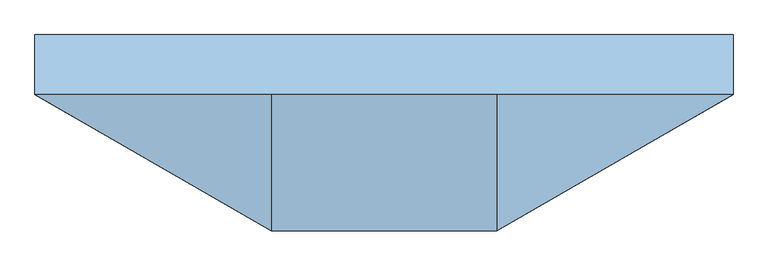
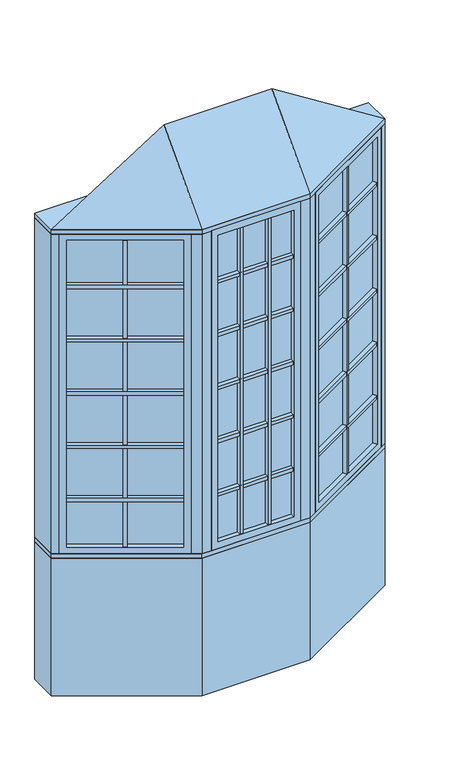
"""IFC4 building model written with IfcOpenShell, lengths in millimetres: window geometry, Pollard_Windows_Tudor Casement Bows and Bays : AML-BAY 30 AFR0518-08-600_GC."""

from ifc_helpers import new_model, si_unit, frame, origin, origin_with_axes, place, context, project, spatial, polyline, outline, extrude, faceted_brep, source, transform, mapped, element, save


def window_bf2ad7f0(model_context):
    return source(origin(), model_context, "Body", "SolidModel", [
        extrude(outline(polyline([(360.381999, -376.6297343), (349.381999, -357.5771754), (815.6135794, -88.3982469), (826.6135794, -107.4508058), (360.381999, -376.6297343)])), frame((0.0, 0.0, 1690.998), z_axis=(0.0, 0.0, 1.0), x_axis=(1.0, 0.0, 0.0)), (0.0, 0.0, 1.0), 18.0),
        extrude(outline(polyline([(346.841999, -353.1777664), (335.841999, -334.1252075), (802.0735794, -64.946279), (813.0735794, -83.9988379), (346.841999, -353.1777664)])), frame((0.0, 0.0, 1690.998), z_axis=(0.0, 0.0, 1.0), x_axis=(1.0, 0.0, 0.0)), (0.0, 0.0, 1.0), 18.0),
        extrude(outline(polyline([(360.381999, -376.6297343), (349.381999, -357.5771754), (815.6135794, -88.3982469), (826.6135794, -107.4508058), (360.381999, -376.6297343)])), frame((0.0, 0.0, 1090.998), z_axis=(0.0, 0.0, 1.0), x_axis=(1.0, 0.0, 0.0)), (0.0, 0.0, 1.0), 18.0),
        extrude(outline(polyline([(346.841999, -353.1777664), (335.841999, -334.1252075), (802.0735794, -64.946279), (813.0735794, -83.9988379), (346.841999, -353.1777664)])), frame((0.0, 0.0, 1090.998), z_axis=(0.0, 0.0, 1.0), x_axis=(1.0, 0.0, 0.0)), (0.0, 0.0, 1.0), 18.0),
        extrude(outline(polyline([(360.381999, -376.6297343), (349.381999, -357.5771754), (815.6135794, -88.3982469), (826.6135794, -107.4508058), (360.381999, -376.6297343)])), frame((0.0, 0.0, 1390.998), z_axis=(0.0, 0.0, 1.0), x_axis=(1.0, 0.0, 0.0)), (0.0, 0.0, 1.0), 18.0),
        extrude(outline(polyline([(346.841999, -353.1777664), (335.841999, -334.1252075), (802.0735794, -64.946279), (813.0735794, -83.9988379), (346.841999, -353.1777664)])), frame((0.0, 0.0, 1390.998), z_axis=(0.0, 0.0, 1.0), x_axis=(1.0, 0.0, 0.0)), (0.0, 0.0, 1.0), 18.0),
        extrude(outline(polyline([(360.381999, -376.6297343), (349.381999, -357.5771754), (815.6135794, -88.3982469), (826.6135794, -107.4508058), (360.381999, -376.6297343)])), frame((0.0, 0.0, 1990.998), z_axis=(0.0, 0.0, 1.0), x_axis=(1.0, 0.0, 0.0)), (0.0, 0.0, 1.0), 18.0),
        extrude(outline(polyline([(346.841999, -353.1777664), (335.841999, -334.1252075), (802.0735794, -64.946279), (813.0735794, -83.9988379), (346.841999, -353.1777664)])), frame((0.0, 0.0, 1990.998), z_axis=(0.0, 0.0, 1.0), x_axis=(1.0, 0.0, 0.0)), (0.0, 0.0, 1.0), 18.0),
        extrude(outline(polyline([(360.381999, -376.6297343), (349.381999, -357.5771754), (815.6135794, -88.3982469), (826.6135794, -107.4508058), (360.381999, -376.6297343)])), frame((0.0, 0.0, 2290.998), z_axis=(0.0, 0.0, 1.0), x_axis=(1.0, 0.0, 0.0)), (0.0, 0.0, 1.0), 18.0),
        extrude(outline(polyline([(346.841999, -353.1777664), (335.841999, -334.1252075), (802.0735794, -64.946279), (813.0735794, -83.9988379), (346.841999, -353.1777664)])), frame((0.0, 0.0, 2290.998), z_axis=(0.0, 0.0, 1.0), x_axis=(1.0, 0.0, 0.0)), (0.0, 0.0, 1.0), 18.0),
        extrude(outline(polyline([(590.2920178, -218.4877112), (601.2920178, -237.5402701), (585.7035606, -246.5402701), (574.7035606, -227.4877112), (590.2920178, -218.4877112)])), frame((0.0, 0.0, 835.8628), z_axis=(0.0, 0.0, 1.0), x_axis=(1.0, 0.0, 0.0)), (0.0, 0.0, 1.0), 1728.2704),
        extrude(outline(polyline([(587.7520178, -214.0883021), (572.1635606, -223.0883021), (561.1635606, -204.0357432), (576.7520178, -195.0357432), (587.7520178, -214.0883021)])), frame((0.0, 0.0, 835.8628), z_axis=(0.0, 0.0, 1.0), x_axis=(1.0, 0.0, 0.0)), (0.0, 0.0, 1.0), 1728.2704),
        extrude(outline(polyline([(826.612102, -82.0482469), (338.3834764, -363.9271754), (335.8434764, -359.5277664), (824.072102, -77.6488379), (826.612102, -82.0482469)])), frame((0.0, 0.0, 823.1628), z_axis=(0.0, 0.0, 1.0), x_axis=(1.0, 0.0, 0.0)), (0.0, 0.0, 1.0), 1753.6704),
        faceted_brep([(815.6135794, -88.3982469, 835.8628), (828.3135794, -110.3952922, 835.8628), (828.3135794, -110.3952922, 2564.1332), (815.6135794, -88.3982469, 2564.1332), (824.072102, -77.6488379, 823.1628), (826.612102, -82.0482469, 823.1628), (826.612102, -82.0482469, 2576.8332), (824.072102, -77.6488379, 2576.8332), (800.3735794, -62.0017926, 835.8628), (813.0735794, -83.9988379, 835.8628), (813.0735794, -83.9988379, 2564.1332), (800.3735794, -62.0017926, 2564.1332), (859.3734073, -92.4628922, 799.998), (831.4334073, -44.0693926, 799.998), (831.4334073, -44.0693926, 2599.998), (859.3734073, -92.4628922, 2599.998), (362.081999, -379.5742207, 2564.1332), (349.381999, -357.5771754, 2564.1332), (338.3834764, -363.9271754, 2576.8332), (335.8434764, -359.5277664, 2576.8332), (346.841999, -353.1777664, 2564.1332), (334.141999, -331.1807211, 2564.1332), (303.0821711, -349.1131211, 2599.998), (331.0221711, -397.5066207, 2599.998), (362.081999, -379.5742207, 835.8628), (349.381999, -357.5771754, 835.8628), (338.3834764, -363.9271754, 823.1628), (335.8434764, -359.5277664, 823.1628), (346.841999, -353.1777664, 835.8628), (334.141999, -331.1807211, 835.8628), (303.0821711, -349.1131211, 799.998), (331.0221711, -397.5066207, 799.998)], [[[0, 1, 2, 3]], [[4, 5, 6, 7]], [[8, 9, 10, 11]], [[12, 13, 14, 15]], [[3, 2, 16, 17]], [[7, 6, 18, 19]], [[11, 10, 20, 21]], [[15, 14, 22, 23]], [[17, 16, 24, 25]], [[19, 18, 26, 27]], [[21, 20, 28, 29]], [[23, 22, 30, 31]], [[25, 24, 1, 0]], [[5, 26, 18, 6], [3, 17, 25, 0]], [[27, 26, 5, 4]], [[7, 19, 27, 4], [9, 28, 20, 10]], [[29, 28, 9, 8]], [[13, 30, 22, 14], [11, 21, 29, 8]], [[31, 30, 13, 12]], [[15, 23, 31, 12], [1, 24, 16, 2]]]),
        extrude(outline(polyline([(83.5188336, -397.1066207), (83.5188336, -419.1066207), (65.5188336, -419.1066207), (65.5188336, -397.1066207), (83.5188336, -397.1066207)])), frame((0.0, 0.0, 835.8628), z_axis=(0.0, 0.0, 1.0), x_axis=(1.0, 0.0, 0.0)), (0.0, 0.0, 1.0), 1728.2704),
        extrude(outline(polyline([(83.5188336, -392.0266207), (65.5188336, -392.0266207), (65.5188336, -370.0266207), (83.5188336, -370.0266207), (83.5188336, -392.0266207)])), frame((0.0, 0.0, 835.8628), z_axis=(0.0, 0.0, 1.0), x_axis=(1.0, 0.0, 0.0)), (0.0, 0.0, 1.0), 1728.2704),
        extrude(outline(polyline([(-65.5188336, -397.1066207), (-65.5188336, -419.1066207), (-83.5188336, -419.1066207), (-83.5188336, -397.1066207), (-65.5188336, -397.1066207)])), frame((0.0, 0.0, 835.8628), z_axis=(0.0, 0.0, 1.0), x_axis=(1.0, 0.0, 0.0)), (0.0, 0.0, 1.0), 1728.2704),
        extrude(outline(polyline([(-65.5188336, -392.0266207), (-83.5188336, -392.0266207), (-83.5188336, -370.0266207), (-65.5188336, -370.0266207), (-65.5188336, -392.0266207)])), frame((0.0, 0.0, 835.8628), z_axis=(0.0, 0.0, 1.0), x_axis=(1.0, 0.0, 0.0)), (0.0, 0.0, 1.0), 1728.2704),
        extrude(outline(polyline([(-201.8561009, -419.1066207), (-201.8561009, -397.1066207), (201.8561009, -397.1066207), (201.8561009, -419.1066207), (-201.8561009, -419.1066207)])), frame((0.0, 0.0, 1090.998), z_axis=(0.0, 0.0, 1.0), x_axis=(1.0, 0.0, 0.0)), (0.0, 0.0, 1.0), 18.0),
        extrude(outline(polyline([(-201.8561009, -392.0266207), (-201.8561009, -370.0266207), (201.8561009, -370.0266207), (201.8561009, -392.0266207), (-201.8561009, -392.0266207)])), frame((0.0, 0.0, 1090.998), z_axis=(0.0, 0.0, 1.0), x_axis=(1.0, 0.0, 0.0)), (0.0, 0.0, 1.0), 18.0),
        extrude(outline(polyline([(-201.8561009, -419.1066207), (-201.8561009, -397.1066207), (201.8561009, -397.1066207), (201.8561009, -419.1066207), (-201.8561009, -419.1066207)])), frame((0.0, 0.0, 1390.998), z_axis=(0.0, 0.0, 1.0), x_axis=(1.0, 0.0, 0.0)), (0.0, 0.0, 1.0), 18.0),
        extrude(outline(polyline([(-201.8561009, -392.0266207), (-201.8561009, -370.0266207), (201.8561009, -370.0266207), (201.8561009, -392.0266207), (-201.8561009, -392.0266207)])), frame((0.0, 0.0, 1390.998), z_axis=(0.0, 0.0, 1.0), x_axis=(1.0, 0.0, 0.0)), (0.0, 0.0, 1.0), 18.0),
        extrude(outline(polyline([(-201.8561009, -419.1066207), (-201.8561009, -397.1066207), (201.8561009, -397.1066207), (201.8561009, -419.1066207), (-201.8561009, -419.1066207)])), frame((0.0, 0.0, 1690.998), z_axis=(0.0, 0.0, 1.0), x_axis=(1.0, 0.0, 0.0)), (0.0, 0.0, 1.0), 18.0),
        extrude(outline(polyline([(-201.8561009, -392.0266207), (-201.8561009, -370.0266207), (201.8561009, -370.0266207), (201.8561009, -392.0266207), (-201.8561009, -392.0266207)])), frame((0.0, 0.0, 1690.998), z_axis=(0.0, 0.0, 1.0), x_axis=(1.0, 0.0, 0.0)), (0.0, 0.0, 1.0), 18.0),
        extrude(outline(polyline([(-201.8561009, -419.1066207), (-201.8561009, -397.1066207), (201.8561009, -397.1066207), (201.8561009, -419.1066207), (-201.8561009, -419.1066207)])), frame((0.0, 0.0, 1990.998), z_axis=(0.0, 0.0, 1.0), x_axis=(1.0, 0.0, 0.0)), (0.0, 0.0, 1.0), 18.0),
        extrude(outline(polyline([(-201.8561009, -392.0266207), (-201.8561009, -370.0266207), (201.8561009, -370.0266207), (201.8561009, -392.0266207), (-201.8561009, -392.0266207)])), frame((0.0, 0.0, 1990.998), z_axis=(0.0, 0.0, 1.0), x_axis=(1.0, 0.0, 0.0)), (0.0, 0.0, 1.0), 18.0),
        extrude(outline(polyline([(-826.6135794, -107.4508058), (-815.6135794, -88.3982469), (-349.381999, -357.5771754), (-360.381999, -376.6297343), (-826.6135794, -107.4508058)])), frame((0.0, 0.0, 1090.998), z_axis=(0.0, 0.0, 1.0), x_axis=(1.0, 0.0, 0.0)), (0.0, 0.0, 1.0), 18.0),
        extrude(outline(polyline([(-813.0735794, -83.9988379), (-802.0735794, -64.946279), (-335.841999, -334.1252075), (-346.841999, -353.1777664), (-813.0735794, -83.9988379)])), frame((0.0, 0.0, 1090.998), z_axis=(0.0, 0.0, 1.0), x_axis=(1.0, 0.0, 0.0)), (0.0, 0.0, 1.0), 18.0),
        extrude(outline(polyline([(-826.6135794, -107.4508058), (-815.6135794, -88.3982469), (-349.381999, -357.5771754), (-360.381999, -376.6297343), (-826.6135794, -107.4508058)])), frame((0.0, 0.0, 1390.998), z_axis=(0.0, 0.0, 1.0), x_axis=(1.0, 0.0, 0.0)), (0.0, 0.0, 1.0), 18.0),
        extrude(outline(polyline([(-813.0735794, -83.9988379), (-802.0735794, -64.946279), (-335.841999, -334.1252075), (-346.841999, -353.1777664), (-813.0735794, -83.9988379)])), frame((0.0, 0.0, 1390.998), z_axis=(0.0, 0.0, 1.0), x_axis=(1.0, 0.0, 0.0)), (0.0, 0.0, 1.0), 18.0),
        extrude(outline(polyline([(-826.6135794, -107.4508058), (-815.6135794, -88.3982469), (-349.381999, -357.5771754), (-360.381999, -376.6297343), (-826.6135794, -107.4508058)])), frame((0.0, 0.0, 1690.998), z_axis=(0.0, 0.0, 1.0), x_axis=(1.0, 0.0, 0.0)), (0.0, 0.0, 1.0), 18.0),
        extrude(outline(polyline([(-813.0735794, -83.9988379), (-802.0735794, -64.946279), (-335.841999, -334.1252075), (-346.841999, -353.1777664), (-813.0735794, -83.9988379)])), frame((0.0, 0.0, 1690.998), z_axis=(0.0, 0.0, 1.0), x_axis=(1.0, 0.0, 0.0)), (0.0, 0.0, 1.0), 18.0),
        extrude(outline(polyline([(-826.6135794, -107.4508058), (-815.6135794, -88.3982469), (-349.381999, -357.5771754), (-360.381999, -376.6297343), (-826.6135794, -107.4508058)])), frame((0.0, 0.0, 1990.998), z_axis=(0.0, 0.0, 1.0), x_axis=(1.0, 0.0, 0.0)), (0.0, 0.0, 1.0), 18.0),
        extrude(outline(polyline([(-813.0735794, -83.9988379), (-802.0735794, -64.946279), (-335.841999, -334.1252075), (-346.841999, -353.1777664), (-813.0735794, -83.9988379)])), frame((0.0, 0.0, 1990.998), z_axis=(0.0, 0.0, 1.0), x_axis=(1.0, 0.0, 0.0)), (0.0, 0.0, 1.0), 18.0),
        extrude(outline(polyline([(-826.6135794, -107.4508058), (-815.6135794, -88.3982469), (-349.381999, -357.5771754), (-360.381999, -376.6297343), (-826.6135794, -107.4508058)])), frame((0.0, 0.0, 2290.998), z_axis=(0.0, 0.0, 1.0), x_axis=(1.0, 0.0, 0.0)), (0.0, 0.0, 1.0), 18.0),
        extrude(outline(polyline([(-813.0735794, -83.9988379), (-802.0735794, -64.946279), (-335.841999, -334.1252075), (-346.841999, -353.1777664), (-813.0735794, -83.9988379)])), frame((0.0, 0.0, 2290.998), z_axis=(0.0, 0.0, 1.0), x_axis=(1.0, 0.0, 0.0)), (0.0, 0.0, 1.0), 18.0),
        extrude(outline(polyline([(-201.8561009, -419.1066207), (-201.8561009, -397.1066207), (201.8561009, -397.1066207), (201.8561009, -419.1066207), (-201.8561009, -419.1066207)])), frame((0.0, 0.0, 2290.998), z_axis=(0.0, 0.0, 1.0), x_axis=(1.0, 0.0, 0.0)), (0.0, 0.0, 1.0), 18.0),
        extrude(outline(polyline([(-201.8561009, -392.0266207), (-201.8561009, -370.0266207), (201.8561009, -370.0266207), (201.8561009, -392.0266207), (-201.8561009, -392.0266207)])), frame((0.0, 0.0, 2290.998), z_axis=(0.0, 0.0, 1.0), x_axis=(1.0, 0.0, 0.0)), (0.0, 0.0, 1.0), 18.0),
        extrude(outline(polyline([(-574.7035606, -227.4877112), (-585.7035606, -246.5402701), (-601.2920178, -237.5402701), (-590.2920178, -218.4877112), (-574.7035606, -227.4877112)])), frame((0.0, 0.0, 835.8628), z_axis=(0.0, 0.0, 1.0), x_axis=(1.0, 0.0, 0.0)), (0.0, 0.0, 1.0), 1728.2704),
        extrude(outline(polyline([(-572.1635606, -223.0883021), (-587.7520178, -214.0883021), (-576.7520178, -195.0357432), (-561.1635606, -204.0357432), (-572.1635606, -223.0883021)])), frame((0.0, 0.0, 835.8628), z_axis=(0.0, 0.0, 1.0), x_axis=(1.0, 0.0, 0.0)), (0.0, 0.0, 1.0), 1728.2704),
        extrude(outline(polyline([(-338.3834764, -363.9271754), (-826.612102, -82.0482469), (-824.072102, -77.6488379), (-335.8434764, -359.5277664), (-338.3834764, -363.9271754)])), frame((0.0, 0.0, 823.1628), z_axis=(0.0, 0.0, 1.0), x_axis=(1.0, 0.0, 0.0)), (0.0, 0.0, 1.0), 1753.6704),
        faceted_brep([(-346.841999, -353.1777664, 2564.1332), (-334.141999, -331.1807211, 2564.1332), (-334.141999, -331.1807211, 835.8628), (-346.841999, -353.1777664, 835.8628), (-338.3834764, -363.9271754, 2576.8332), (-335.8434764, -359.5277664, 2576.8332), (-335.8434764, -359.5277664, 823.1628), (-338.3834764, -363.9271754, 823.1628), (-362.081999, -379.5742207, 2564.1332), (-349.381999, -357.5771754, 2564.1332), (-349.381999, -357.5771754, 835.8628), (-362.081999, -379.5742207, 835.8628), (-303.0821711, -349.1131211, 2599.998), (-331.0221711, -397.5066207, 2599.998), (-331.0221711, -397.5066207, 799.998), (-303.0821711, -349.1131211, 799.998), (-800.3735794, -62.0017926, 835.8628), (-813.0735794, -83.9988379, 835.8628), (-824.072102, -77.6488379, 823.1628), (-826.612102, -82.0482469, 823.1628), (-815.6135794, -88.3982469, 835.8628), (-828.3135794, -110.3952922, 835.8628), (-859.3734073, -92.4628922, 799.998), (-831.4334073, -44.0693926, 799.998), (-800.3735794, -62.0017926, 2564.1332), (-813.0735794, -83.9988379, 2564.1332), (-824.072102, -77.6488379, 2576.8332), (-826.612102, -82.0482469, 2576.8332), (-815.6135794, -88.3982469, 2564.1332), (-828.3135794, -110.3952922, 2564.1332), (-859.3734073, -92.4628922, 2599.998), (-831.4334073, -44.0693926, 2599.998)], [[[0, 1, 2, 3]], [[4, 5, 6, 7]], [[8, 9, 10, 11]], [[12, 13, 14, 15]], [[3, 2, 16, 17]], [[7, 6, 18, 19]], [[11, 10, 20, 21]], [[15, 14, 22, 23]], [[17, 16, 24, 25]], [[19, 18, 26, 27]], [[21, 20, 28, 29]], [[23, 22, 30, 31]], [[15, 23, 31, 12], [1, 24, 16, 2]], [[25, 24, 1, 0]], [[5, 26, 18, 6], [3, 17, 25, 0]], [[27, 26, 5, 4]], [[7, 19, 27, 4], [9, 28, 20, 10]], [[29, 28, 9, 8]], [[13, 30, 22, 14], [11, 21, 29, 8]], [[31, 30, 13, 12]]]),
        extrude(outline(polyline([(214.5561009, -397.1066207), (-214.5561009, -397.1066207), (-214.5561009, -392.0266207), (214.5561009, -392.0266207), (214.5561009, -397.1066207)])), frame((0.0, 0.0, 823.1628), z_axis=(0.0, 0.0, 1.0), x_axis=(1.0, 0.0, 0.0)), (0.0, 0.0, 1.0), 1753.6704),
        faceted_brep([(201.8561009, -397.1066207, 835.8628), (201.8561009, -422.5066207, 835.8628), (201.8561009, -422.5066207, 2564.1332), (201.8561009, -397.1066207, 2564.1332), (214.5561009, -392.0266207, 823.1628), (214.5561009, -397.1066207, 823.1628), (214.5561009, -397.1066207, 2576.8332), (214.5561009, -392.0266207, 2576.8332), (201.8561009, -366.6266207, 835.8628), (201.8561009, -392.0266207, 835.8628), (201.8561009, -392.0266207, 2564.1332), (201.8561009, -366.6266207, 2564.1332), (237.7209009, -422.5066207, 799.998), (237.7209009, -366.6266207, 799.998), (237.7209009, -366.6266207, 2599.998), (237.7209009, -422.5066207, 2599.998), (-201.8561009, -422.5066207, 2564.1332), (-201.8561009, -397.1066207, 2564.1332), (-214.5561009, -397.1066207, 2576.8332), (-214.5561009, -392.0266207, 2576.8332), (-201.8561009, -392.0266207, 2564.1332), (-201.8561009, -366.6266207, 2564.1332), (-237.7209009, -366.6266207, 2599.998), (-237.7209009, -422.5066207, 2599.998), (-201.8561009, -422.5066207, 835.8628), (-201.8561009, -397.1066207, 835.8628), (-214.5561009, -397.1066207, 823.1628), (-214.5561009, -392.0266207, 823.1628), (-201.8561009, -392.0266207, 835.8628), (-201.8561009, -366.6266207, 835.8628), (-237.7209009, -366.6266207, 799.998), (-237.7209009, -422.5066207, 799.998)], [[[0, 1, 2, 3]], [[4, 5, 6, 7]], [[8, 9, 10, 11]], [[12, 13, 14, 15]], [[3, 2, 16, 17]], [[7, 6, 18, 19]], [[11, 10, 20, 21]], [[15, 14, 22, 23]], [[17, 16, 24, 25]], [[19, 18, 26, 27]], [[21, 20, 28, 29]], [[23, 22, 30, 31]], [[15, 23, 31, 12], [1, 24, 16, 2]], [[25, 24, 1, 0]], [[5, 26, 18, 6], [3, 17, 25, 0]], [[27, 26, 5, 4]], [[7, 19, 27, 4], [9, 28, 20, 10]], [[29, 28, 9, 8]], [[13, 30, 22, 14], [11, 21, 29, 8]], [[31, 30, 13, 12]]]),
        faceted_brep([(890.0, -74.7806207, 2625.398), (287.7209009, -422.5066207, 2625.398), (-287.7209009, -422.5066207, 2625.398), (-890.0, -74.7806207, 2625.398), (-287.7209009, -74.7806207, 3006.398), (287.7209009, -74.7806207, 3006.398)], [[[0, 1, 2, 3]], [[3, 2, 4]], [[2, 1, 5, 4]], [[1, 0, 5]], [[0, 3, 4, 5]]]),
        extrude(outline(polyline([(-890.0, 77.6193793), (890.0, 77.6193793), (890.0, -74.7806207), (287.7209009, -422.5066207), (-287.7209009, -422.5066207), (-890.0, -74.7806207), (-890.0, 77.6193793)])), frame((0.0, 0.0, 2599.998), z_axis=(0.0, 0.0, 1.0), x_axis=(1.0, 0.0, 0.0)), (0.0, 0.0, 1.0), 25.4),
        extrude(outline(polyline([(-890.0, -74.7806207), (-890.0, 77.6193793), (-849.1645431, 77.6193793), (-849.1645431, -74.7806207), (-859.3734073, -92.4628922), (-890.0, -74.7806207)])), frame((0.0, 0.0, 799.998), z_axis=(0.0, 0.0, 1.0), x_axis=(1.0, 0.0, 0.0)), (0.0, 0.0, 1.0), 1800.0),
        extrude(outline(polyline([(890.0, 77.6193793), (890.0, -74.7806207), (859.3734073, -92.4628922), (849.1645431, -74.7806207), (849.1645431, 77.6193793), (890.0, 77.6193793)])), frame((0.0, 0.0, 799.998), z_axis=(0.0, 0.0, 1.0), x_axis=(1.0, 0.0, 0.0)), (0.0, 0.0, 1.0), 1800.0),
        extrude(outline(polyline([(287.7209009, -422.5066207), (237.7209009, -422.5066207), (237.7209009, -372.5066207), (274.3234413, -372.5066207), (306.0221711, -354.2053505), (331.0221711, -397.5066207), (287.7209009, -422.5066207)])), frame((0.0, 0.0, 799.998), z_axis=(0.0, 0.0, 1.0), x_axis=(1.0, 0.0, 0.0)), (0.0, 0.0, 1.0), 1800.0),
        extrude(outline(polyline([(-287.7209009, -422.5066207), (-331.0221711, -397.5066207), (-306.0221711, -354.2053505), (-274.3234413, -372.5066207), (-237.7209009, -372.5066207), (-237.7209009, -422.5066207), (-287.7209009, -422.5066207)])), frame((0.0, 0.0, 799.998), z_axis=(0.0, 0.0, 1.0), x_axis=(1.0, 0.0, 0.0)), (0.0, 0.0, 1.0), 1800.0),
        extrude(outline(polyline([(-287.7209009, -422.5066207), (-890.0, -74.7806207), (-890.0, 77.6193793), (-849.1645431, 77.6193793), (-246.885444, -270.1066207), (246.885444, -270.1066207), (849.1645431, 77.6193793), (890.0, 77.6193793), (890.0, -74.7806207), (287.7209009, -422.5066207), (-287.7209009, -422.5066207)])), frame((0.0, 0.0, 774.598), z_axis=(0.0, 0.0, 1.0), x_axis=(1.0, 0.0, 0.0)), (0.0, 0.0, 1.0), 25.4),
        extrude(outline(polyline([(-890.0, -74.7806207), (-890.0, 77.6193793), (-849.1645431, 77.6193793), (-246.885444, -270.1066207), (246.885444, -270.1066207), (849.1645431, 77.6193793), (890.0, 77.6193793), (890.0, -74.7806207), (287.7209009, -422.5066207), (-287.7209009, -422.5066207), (-890.0, -74.7806207)])), origin_with_axes(), (0.0, 0.0, 1.0), 774.598),
    ])


if __name__ == "__main__":
    model = new_model("IFC4")
    model_context = context("Model", 3, world=origin())
    ifc_project = project(units=[si_unit("LENGTHUNIT", "METRE", prefix="MILLI")], contexts=[model_context])
    site = spatial("IfcSite", under=ifc_project)
    building = spatial("IfcBuilding", under=site)
    placement = place(None, origin())
    window_shape = window_bf2ad7f0(model_context)
    element("IfcWindow", 1, ObjectType="Pollard_Windows_Tudor Casement Bows and Bays : AML-BAY 30 AFR0518-08-600_GC", at=placement, inside=building, context=model_context, shape_type="MappedRepresentation", body=[
        mapped(window_shape, transform((0.0, 0.0, 0.0), x_axis=(1.0, 0.0, 0.0), y_axis=(0.0, 1.0, 0.0), z_axis=(0.0, 0.0, 1.0))),
    ])
    save(model, "model.ifc")
